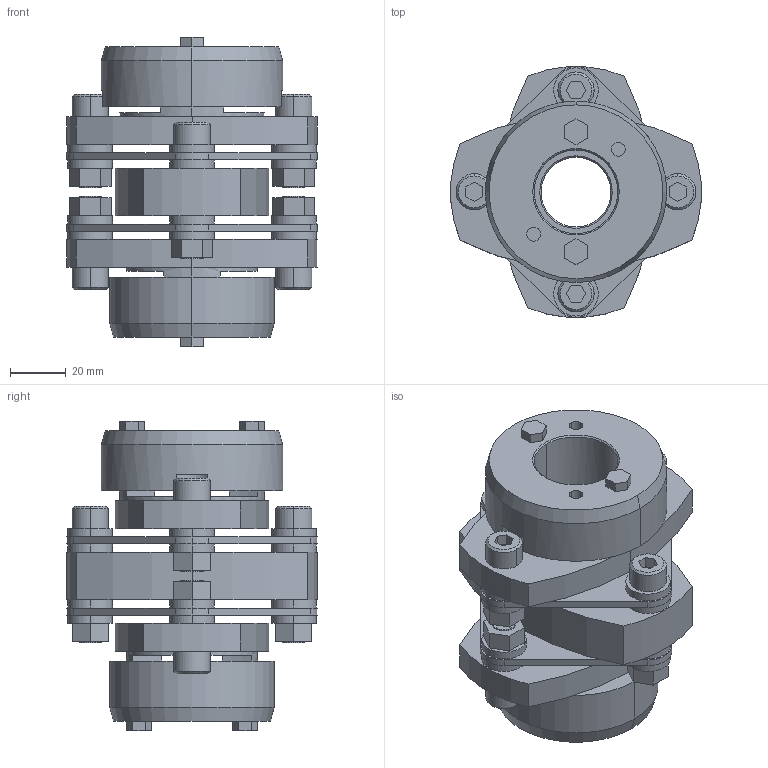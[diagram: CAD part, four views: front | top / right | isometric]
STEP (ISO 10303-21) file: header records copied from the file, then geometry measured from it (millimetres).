
FILE_DESCRIPTION((''),'2;1');
FILE_NAME('LCD-90T7-25×30.stp','2011-09-12T09:54:16',(''),(''),'AutoCAD STEP 2000i','AutoCAD 2000i',', , ');
FILE_SCHEMA(('CONFIG_CONTROL_DESIGN'));
Length unit declared in the file: millimetre
Products named in the file (8): LCD-90T7-25×30; 忣兜1; LC90T7-T030; LC90T7-T025-1; LC90T7-T025; LC90T7-T019-1; LC90T7-T019; LCD90-ITA
Assembly tree (7 placements, depth 2):
  LCD-90T7-25×30
    忣兜1
    LC90T7-T030
    LC90T7-T025-1
    LC90T7-T025
    LC90T7-T019-1
    LC90T7-T019
    LCD90-ITA
Bounding box: 90 x 89.94 x 111 mm (x, y, z)
Volume: 272052.2 mm3; surface area: 74375.5 mm2
Topology: 1 solids, 1 shells, 310 faces, 756 edges, 496 vertices
Faces by surface type: plane 164, cylinder 122, cone 24
Entity records: 9401 total; most frequent: DIRECTION 1680, CARTESIAN_POINT 1570, ORIENTED_EDGE 1512, EDGE_CURVE 756, AXIS2_PLACEMENT_3D 606, VERTEX_POINT 496, VECTOR 468, LINE 468
